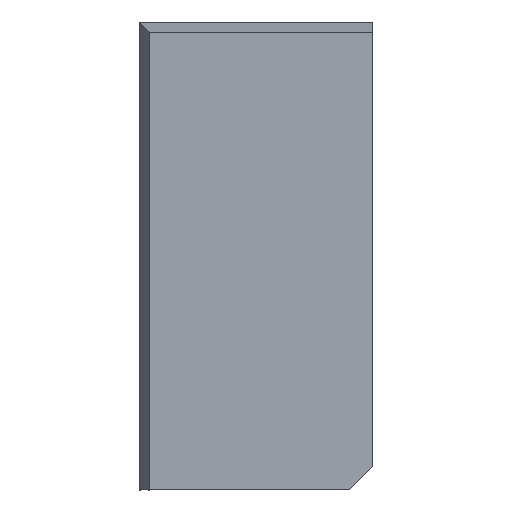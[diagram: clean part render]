
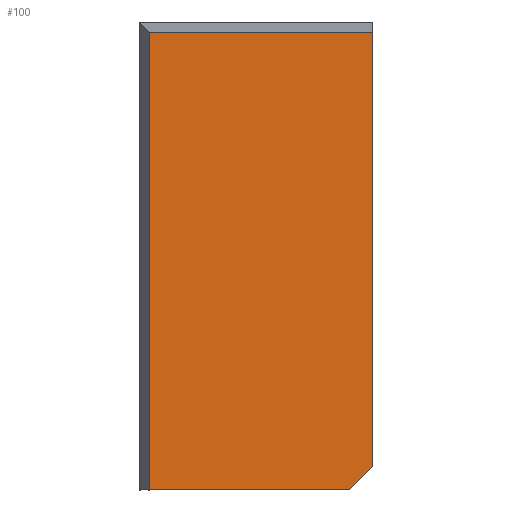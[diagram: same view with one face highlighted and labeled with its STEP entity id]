
A CAD part, left-side view. The second image highlights one B-rep face of the part: STEP entity #100.
In plain terms, the highlighted face is a extrusion surface.
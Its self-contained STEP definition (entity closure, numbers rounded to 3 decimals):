
#54=CARTESIAN_POINT('Control Point',(0.,0.,0.)) ;
#55=CARTESIAN_POINT('Control Point',(0.,0.,58.66)) ;
#59=CARTESIAN_POINT('Line Origine',(0.,14.33,58.66)) ;
#63=CARTESIAN_POINT('Vertex',(0.,0.,58.66)) ;
#65=CARTESIAN_POINT('Vertex',(0.,28.66,58.66)) ;
#68=CARTESIAN_POINT('Line Origine',(0.,28.66,29.33)) ;
#72=CARTESIAN_POINT('Vertex',(0.,28.66,0.)) ;
#75=CARTESIAN_POINT('Line Origine',(0.,14.33,0.)) ;
#79=CARTESIAN_POINT('Vertex',(0.,3.,0.)) ;
#83=CARTESIAN_POINT('Control Point',(0.,3.,0.)) ;
#84=CARTESIAN_POINT('Control Point',(0.,0.,3.)) ;
#85=CARTESIAN_POINT('Vertex',(0.,0.,3.)) ;
#88=CARTESIAN_POINT('Line Origine',(0.,0.,29.33)) ;
#56=DIRECTION('Vector Direction',(0.,1.,0.)) ;
#60=DIRECTION('Vector Direction',(0.,1.,0.)) ;
#69=DIRECTION('Vector Direction',(0.,0.,1.)) ;
#76=DIRECTION('Vector Direction',(0.,1.,0.)) ;
#89=DIRECTION('Vector Direction',(0.,0.,1.)) ;
#94=ORIENTED_EDGE('',*,*,#67,.T.) ;
#95=ORIENTED_EDGE('',*,*,#74,.T.) ;
#96=ORIENTED_EDGE('',*,*,#81,.T.) ;
#97=ORIENTED_EDGE('',*,*,#87,.T.) ;
#98=ORIENTED_EDGE('',*,*,#92,.T.) ;
#57=VECTOR('Extrusion Surface Vector',#56,1.) ;
#61=VECTOR('Line Direction',#60,1.) ;
#70=VECTOR('Line Direction',#69,1.) ;
#77=VECTOR('Line Direction',#76,1.) ;
#90=VECTOR('Line Direction',#89,1.) ;
#100=ADVANCED_FACE('Superficie.1',(#99),#58,.T.) ;
#53=B_SPLINE_CURVE_WITH_KNOTS('',1,(#54,#55),.UNSPECIFIED.,.F.,.U.,(2,2),(-29.33,29.33),.UNSPECIFIED.) ;
#82=B_SPLINE_CURVE_WITH_KNOTS('',1,(#83,#84),.UNSPECIFIED.,.F.,.U.,(2,2),(-2.121,2.121),.UNSPECIFIED.) ;
#67=EDGE_CURVE('',#64,#66,#62,.T.) ;
#74=EDGE_CURVE('',#66,#73,#71,.F.) ;
#81=EDGE_CURVE('',#73,#80,#78,.F.) ;
#87=EDGE_CURVE('',#80,#86,#82,.T.) ;
#92=EDGE_CURVE('',#86,#64,#91,.T.) ;
#93=EDGE_LOOP('',(#94,#95,#96,#97,#98)) ;
#99=FACE_OUTER_BOUND('',#93,.T.) ;
#62=LINE('Line',#59,#61) ;
#71=LINE('Line',#68,#70) ;
#78=LINE('Line',#75,#77) ;
#91=LINE('Line',#88,#90) ;
#58=SURFACE_OF_LINEAR_EXTRUSION('generated tabulated cylinder',#53,#57) ;
#64=VERTEX_POINT('',#63) ;
#66=VERTEX_POINT('',#65) ;
#73=VERTEX_POINT('',#72) ;
#80=VERTEX_POINT('',#79) ;
#86=VERTEX_POINT('',#85) ;
